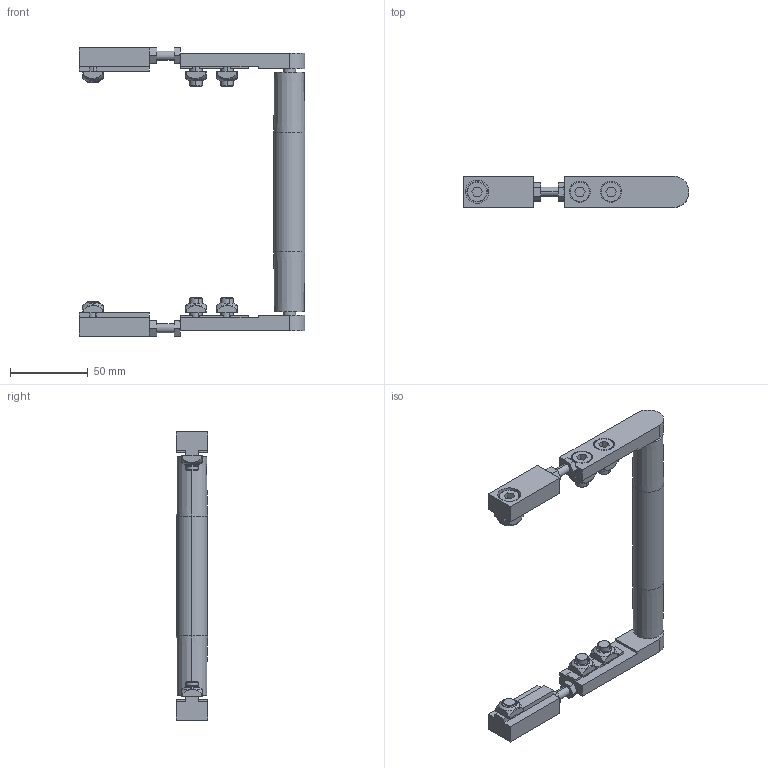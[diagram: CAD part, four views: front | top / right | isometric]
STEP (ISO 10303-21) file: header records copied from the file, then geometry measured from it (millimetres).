
FILE_DESCRIPTION (( 'STEP AP214' ), '1' );
FILE_NAME ('084.020.KI.134.STEP', '2021-02-05T13:54:31', ( '' ), ( '' ), 'SwSTEP 2.0', 'SolidWorks 2018', '' );
FILE_SCHEMA (( 'AUTOMOTIVE_DESIGN' ));
Length unit declared in the file: millimetre
Products named in the file (10): 084.800.008; 084.802.008; 084.800.039; circlip for shafts normal_din_PreviewCfg; 084.301.000 VITI ALUSIC_084.301.002; 084.800.012; 084.302.000 DADI ALUSIC 13x13-1_084.302.004; 084.020.KI.134; 084.800.002; 084.800.007
Assembly tree (27 placements, depth 2):
  084.020.KI.134
    084.802.008  x2
    084.301.000 VITI ALUSIC_084.301.002  x6
    084.302.000 DADI ALUSIC 13x13-1_084.302.004  x6
    084.800.039
    084.800.012  x4
    084.800.008  x2
    084.800.002  x2
    084.800.007  x2
    circlip for shafts normal_din_PreviewCfg  x2
Bounding box: 145 x 20 x 185 mm (x, y, z)
Volume: 87928.4 mm3; surface area: 58478.8 mm2
Topology: 31 solids, 31 shells, 654 faces, 1534 edges, 978 vertices
Faces by surface type: plane 250, cylinder 212, torus 112, cone 56, bspline 24
Entity records: 7297 total; most frequent: CARTESIAN_POINT 1531, DIRECTION 1185, ORIENTED_EDGE 1018, EDGE_CURVE 509, AXIS2_PLACEMENT_3D 471, VERTEX_POINT 327, EDGE_LOOP 250, VECTOR 243
